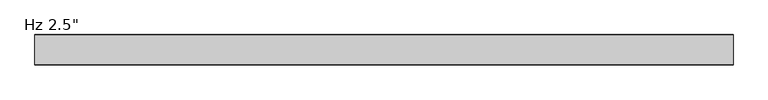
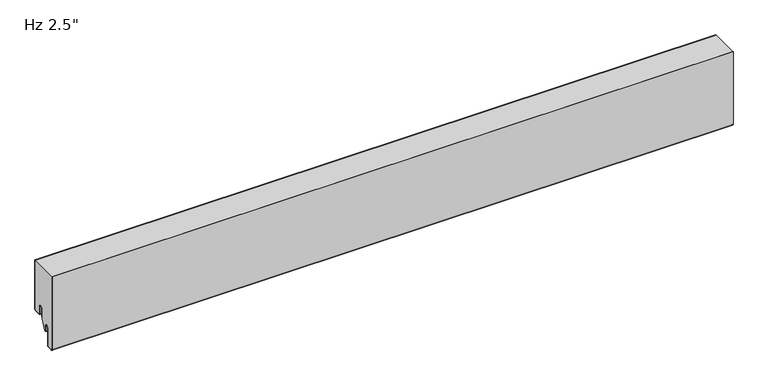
"""IFC4 building model written with IfcOpenShell, lengths in millimetres: plate geometry."""

from ifc_helpers import new_model, si_unit, point, frame, frame_2d, origin, place, context, project, spatial, polyline, circle_curve, trimmed, segment, composite_curve, outline, extrude, source, transform, mapped, element, save


def plate_3ba889b1(model_context):
    return source(origin(), model_context, "Body", "SweptSolid", [
        extrude(outline(composite_curve([segment(trimmed(circle_curve(frame_2d((-21.43125, 19.05)), 4.96875), [point((-16.4625, 19.05))], [point((-26.4, 19.05))], True, "CARTESIAN"), True, "CONTINUOUS"), segment(polyline([(-26.4, 19.05), (-26.4, -3.1323422), (-36.5326309, -23.01875), (-38.1, -23.01875), (-38.1, -13.5080174), (-38.89375, -13.5080174), (-38.6875, -11.9205174)]), True, "CONTINUOUS"), segment(trimmed(circle_curve(frame_2d((-43.65625, -11.9205174)), 4.96875), [point((-38.6875, -11.9205174))], [point((-48.625, -11.9205174))], True, "CARTESIAN"), True, "CONTINUOUS"), segment(polyline([(-48.625, -11.9205174), (-48.625, -50.1038221)]), True, "CONTINUOUS"), segment(trimmed(circle_curve(frame_2d((-50.00625, -50.1038221)), 1.38125), [point((-48.625, -50.1038221))], [point((-49.933961, -51.4831791))], False, "CARTESIAN"), True, "CONTINUOUS"), segment(polyline([(-49.933961, -51.4831791), (-61.046461, -52.0655606)]), True, "CONTINUOUS"), segment(trimmed(circle_curve(frame_2d((-61.11875, -50.6862035)), 1.38125), [point((-61.046461, -52.0655606))], [point((-62.5, -50.6862035))], False, "CARTESIAN"), True, "CONTINUOUS"), segment(polyline([(-62.5, -50.6862035), (-62.5, 114.0), (-1.0, 114.0), (-1.0, 3.175)]), True, "CONTINUOUS"), segment(trimmed(circle_curve(frame_2d((-2.38125, 3.175)), 1.38125), [point((-1.0, 3.175))], [point((-2.38125, 1.79375))], False, "CARTESIAN"), True, "CONTINUOUS"), segment(polyline([(-2.38125, 1.79375), (-15.08125, 1.79375)]), True, "CONTINUOUS"), segment(trimmed(circle_curve(frame_2d((-15.08125, 3.175)), 1.38125), [point((-15.08125, 1.79375))], [point((-16.4625, 3.175))], False, "CARTESIAN"), True, "CONTINUOUS"), segment(polyline([(-16.4625, 3.175), (-16.4625, 19.05)]), True, "CONTINUOUS")], self_intersect=False)), frame((-730.0, 0.0, 0.0), z_axis=(1.0, 0.0, 0.0), x_axis=(0.0, 1.0, 0.0)), (0.0, 0.0, 1.0), 1460.0),
        extrude(outline(composite_curve([segment(polyline([(-25.4, 0.79375), (-26.4, 0.79375), (-26.4, 19.05)]), True, "CONTINUOUS"), segment(trimmed(circle_curve(frame_2d((-21.43125, 19.05)), 4.96875), [point((-26.4, 19.05))], [point((-16.4625, 19.05))], False, "CARTESIAN"), True, "CONTINUOUS"), segment(polyline([(-16.4625, 19.05), (-16.4625, 3.175)]), True, "CONTINUOUS"), segment(trimmed(circle_curve(frame_2d((-15.08125, 3.175)), 1.38125), [point((-16.4625, 3.175))], [point((-15.08125, 1.79375))], True, "CARTESIAN"), True, "CONTINUOUS"), segment(polyline([(-15.08125, 1.79375), (-2.38125, 1.79375)]), True, "CONTINUOUS"), segment(trimmed(circle_curve(frame_2d((-2.38125, 3.175)), 1.38125), [point((-2.38125, 1.79375))], [point((-1.0, 3.175))], True, "CARTESIAN"), True, "CONTINUOUS"), segment(polyline([(-1.0, 3.175), (-1.0, 114.0), (0.0, 114.0), (0.0, 3.175)]), True, "CONTINUOUS"), segment(trimmed(circle_curve(frame_2d((-2.38125, 3.175)), 2.38125), [point((0.0, 3.175))], [point((-2.38125, 0.79375))], False, "CARTESIAN"), True, "CONTINUOUS"), segment(polyline([(-2.38125, 0.79375), (-15.08125, 0.79375)]), True, "CONTINUOUS"), segment(trimmed(circle_curve(frame_2d((-15.08125, 3.175)), 2.38125), [point((-15.08125, 0.79375))], [point((-17.4625, 3.175))], False, "CARTESIAN"), True, "CONTINUOUS"), segment(polyline([(-17.4625, 3.175), (-17.4625, 19.05)]), True, "CONTINUOUS"), segment(trimmed(circle_curve(frame_2d((-21.43125, 19.05)), 3.96875), [point((-17.4625, 19.05))], [point((-25.4, 19.05))], True, "CARTESIAN"), True, "CONTINUOUS"), segment(polyline([(-25.4, 19.05), (-25.4, 0.79375)]), True, "CONTINUOUS")], self_intersect=False)), frame((-730.0, 0.0, 0.0), z_axis=(1.0, 0.0, 0.0), x_axis=(0.0, 1.0, 0.0)), (0.0, 0.0, 1.0), 1460.0),
        extrude(outline(composite_curve([segment(trimmed(circle_curve(frame_2d((-38.89375, -23.2314549)), 0.79375), [point((-38.1, -23.2314549))], [point((-39.6875, -23.2314549))], False, "CARTESIAN"), True, "CONTINUOUS"), segment(polyline([(-39.6875, -23.2314549), (-39.6875, -11.9205174)]), True, "CONTINUOUS"), segment(trimmed(circle_curve(frame_2d((-43.65625, -11.9205174)), 3.96875), [point((-39.6875, -11.9205174))], [point((-47.625, -11.9205174))], True, "CARTESIAN"), True, "CONTINUOUS"), segment(polyline([(-47.625, -11.9205174), (-47.625, -50.1038221)]), True, "CONTINUOUS"), segment(trimmed(circle_curve(frame_2d((-50.00625, -50.1038221)), 2.38125), [point((-47.625, -50.1038221))], [point((-49.881625, -52.4818086))], False, "CARTESIAN"), True, "CONTINUOUS"), segment(polyline([(-49.881625, -52.4818086), (-60.994125, -53.0641901)]), True, "CONTINUOUS"), segment(trimmed(circle_curve(frame_2d((-61.11875, -50.6862035)), 2.38125), [point((-60.994125, -53.0641901))], [point((-63.5, -50.6862035))], False, "CARTESIAN"), True, "CONTINUOUS"), segment(polyline([(-63.5, -50.6862035), (-63.5, 114.0), (-62.5, 114.0), (-62.5, -50.6862035)]), True, "CONTINUOUS"), segment(trimmed(circle_curve(frame_2d((-61.11875, -50.6862035)), 1.38125), [point((-62.5, -50.6862035))], [point((-61.046461, -52.0655606))], True, "CARTESIAN"), True, "CONTINUOUS"), segment(polyline([(-61.046461, -52.0655606), (-49.933961, -51.4831791)]), True, "CONTINUOUS"), segment(trimmed(circle_curve(frame_2d((-50.00625, -50.1038221)), 1.38125), [point((-49.933961, -51.4831791))], [point((-48.625, -50.1038221))], True, "CARTESIAN"), True, "CONTINUOUS"), segment(polyline([(-48.625, -50.1038221), (-48.625, -11.9205174)]), True, "CONTINUOUS"), segment(trimmed(circle_curve(frame_2d((-43.65625, -11.9205174)), 4.96875), [point((-48.625, -11.9205174))], [point((-38.6875, -11.9205174))], False, "CARTESIAN"), True, "CONTINUOUS"), segment(polyline([(-38.6875, -11.9205174), (-38.89375, -13.5080174), (-38.1, -13.5080174), (-38.1, -23.2314549)]), True, "CONTINUOUS")], self_intersect=False)), frame((-730.0, 0.0, 0.0), z_axis=(1.0, 0.0, 0.0), x_axis=(0.0, 1.0, 0.0)), (0.0, 0.0, 1.0), 1460.0),
    ])


if __name__ == "__main__":
    model = new_model("IFC4")
    model_context = context("Model", 3, world=origin())
    ifc_project = project(units=[si_unit("LENGTHUNIT", "METRE", prefix="MILLI")], contexts=[model_context])
    site = spatial("IfcSite", under=ifc_project)
    building = spatial("IfcBuilding", under=site)
    placement = place(None, origin())
    plate_shape = plate_3ba889b1(model_context)
    element("IfcPlate", 1, ObjectType="KIP-30-DWHR-R19-CP-Hz-F : Hz 2.5\"", at=placement, inside=building, context=model_context, shape_type="MappedRepresentation", body=[
        mapped(plate_shape, transform((0.0, 0.0, 0.0), x_axis=(1.0, 0.0, 0.0), y_axis=(0.0, 1.0, 0.0), z_axis=(0.0, 0.0, 1.0))),
    ])
    save(model, "model.ifc")
